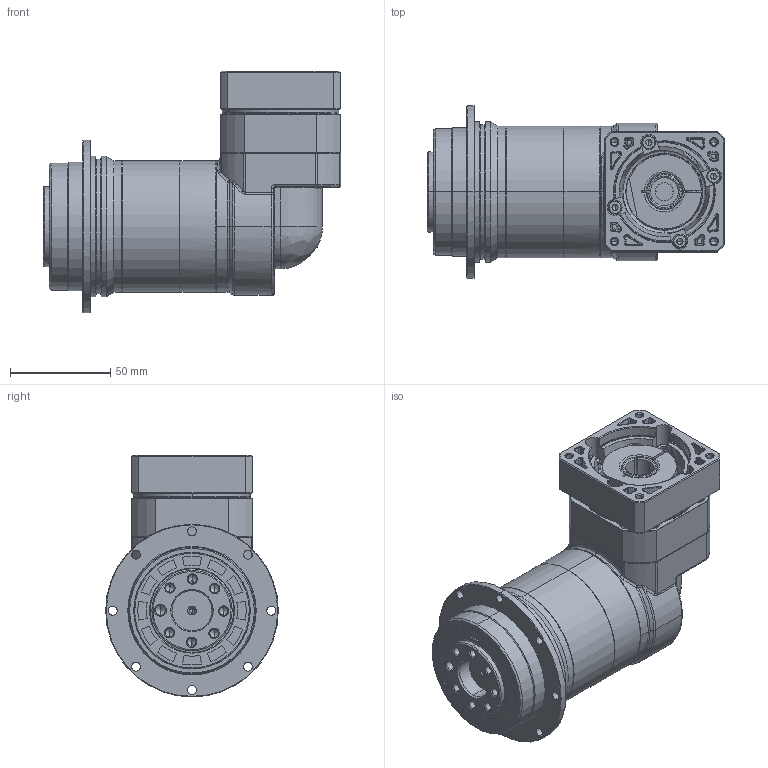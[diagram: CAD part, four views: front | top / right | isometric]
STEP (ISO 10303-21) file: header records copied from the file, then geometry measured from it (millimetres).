
FILE_DESCRIPTION (( 'STEP AP214' ), '1' );
FILE_NAME ('EVT064-L2-P1 14-50-70-M4-33.STEP', '2025-02-17T03:48:53', ( '微软用户' ), ( '微软中国' ), 'SwSTEP 2.0', 'SolidWorks 2021', '' );
FILE_SCHEMA (( 'AUTOMOTIVE_DESIGN' ));
Length unit declared in the file: millimetre
Products named in the file (4): 3.EVT064F眻褒眊极_step_stp_stp.stp; EVT06D-L2-8-38.1-66.7-M4-33; EVT064D-L2-14-50-70-M4-33; EVT064-L2-P1 14-50-70-M4-33
Assembly tree (7 placements, depth 2):
  EVT064-L2-P1 14-50-70-M4-33
    EVT064D-L2-14-50-70-M4-33
    3.EVT064F眻褒眊极_step_stp_stp.stp
    EVT06D-L2-8-38.1-66.7-M4-33  x5
Bounding box: 148 x 86 x 120.5 mm (x, y, z)
Volume: 483530.4 mm3; surface area: 136542.7 mm2
Topology: 16 solids, 26 shells, 1496 faces, 3713 edges, 2290 vertices
Faces by surface type: cylinder 490, plane 378, bspline 321, cone 291, torus 16
Entity records: 60267 total; most frequent: CARTESIAN_POINT 30133, ORIENTED_EDGE 6604, DIRECTION 5645, EDGE_CURVE 3306, AXIS2_PLACEMENT_3D 2263, VERTEX_POINT 2078, EDGE_LOOP 1555, FACE_OUTER_BOUND 1368
